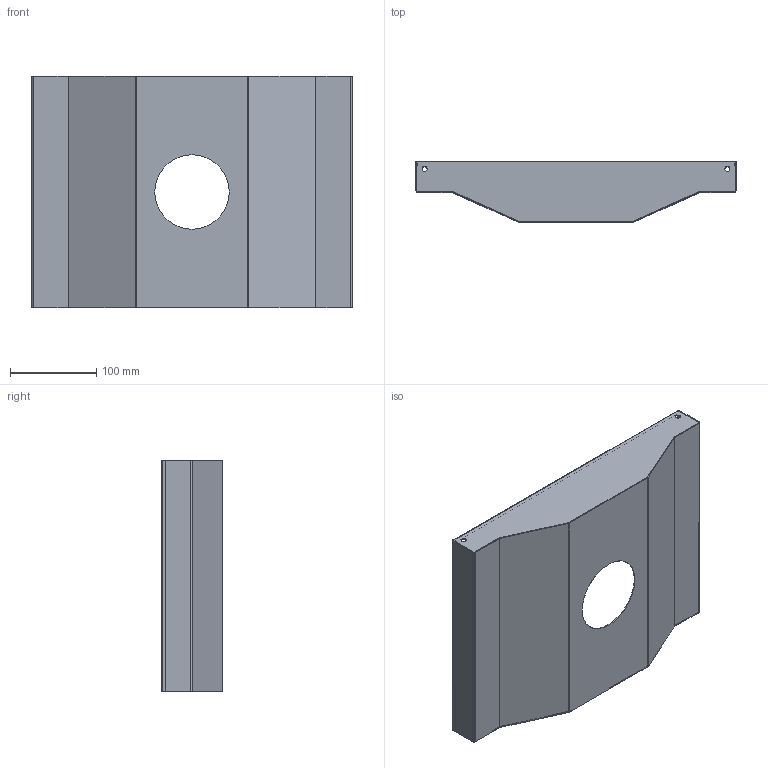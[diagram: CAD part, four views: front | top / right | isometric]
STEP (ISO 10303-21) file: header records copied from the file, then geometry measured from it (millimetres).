
FILE_DESCRIPTION (( 'STEP AP203' ), '1' );
FILE_NAME ('FB-003-49C清洗接水槽.STEP', '2025-03-19T08:42:12', ( 'Windows 用户' ), ( 'Organization' ), 'SwSTEP 2.0', 'SolidWorks 2020', '' );
FILE_SCHEMA (( 'CONFIG_CONTROL_DESIGN' ));
Length unit declared in the file: millimetre
Products named in the file (3): FB-003-49C清洗接水槽; ь炴祥凄詩諉阨羞-1; ь炴祥凄詩諉阨羞-2
Assembly tree (3 placements, depth 2):
  FB-003-49C清洗接水槽
    ь炴祥凄詩諉阨羞-1
    ь炴祥凄詩諉阨羞-2  x2
Bounding box: 370 x 71.05 x 268 mm (x, y, z)
Volume: 161842.8 mm3; surface area: 327152.2 mm2
Topology: 3 solids, 3 shells, 136 faces, 310 edges, 180 vertices
Faces by surface type: plane 94, cylinder 42
Entity records: 3105 total; most frequent: DIRECTION 508, CARTESIAN_POINT 466, ORIENTED_EDGE 456, EDGE_CURVE 228, AXIS2_PLACEMENT_3D 170, VECTOR 168, LINE 168, VERTEX_POINT 128
